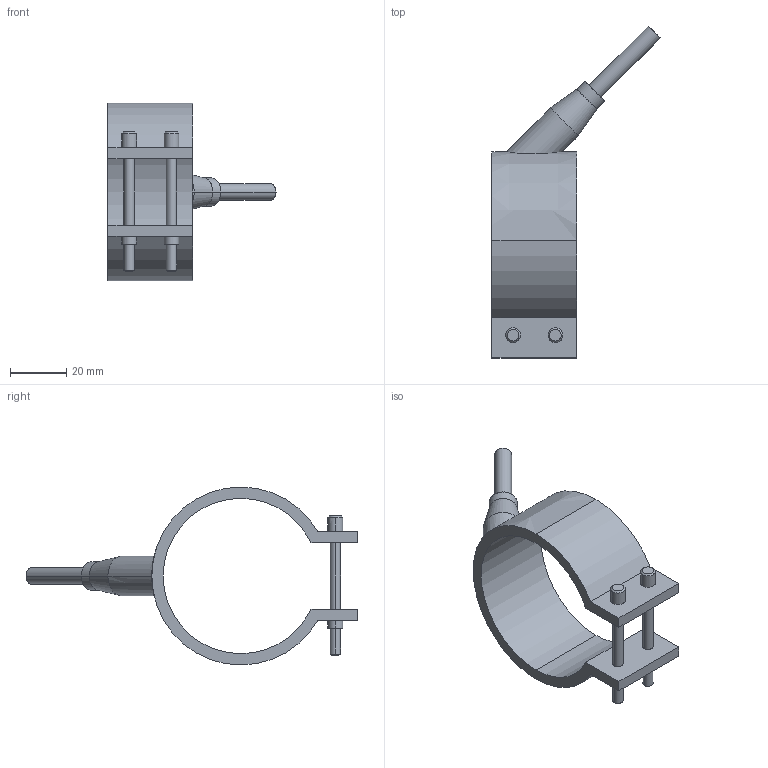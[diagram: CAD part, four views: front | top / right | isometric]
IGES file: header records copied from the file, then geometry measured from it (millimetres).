
Start section: START RECORD GO HERE.
Global section: file name: 29055030.igs; native system: DASSAULT SYSTEMES CATIA V5 R20 - www.3ds.com; preprocessor: CATIA Version 5 Release 20 ; author: Utente; organization: NB04-ASUS; date: 20210329.151204; units: millimetre
Bounding box: 59.55 x 117.55 x 63 mm (x, y, z)
Surface area: 15633.4 mm2 (no closed solid volume)
Topology: 0 solids, 0 shells, 54 faces, 248 edges, 248 vertices
Faces by surface type: revolution 38, plane 16
